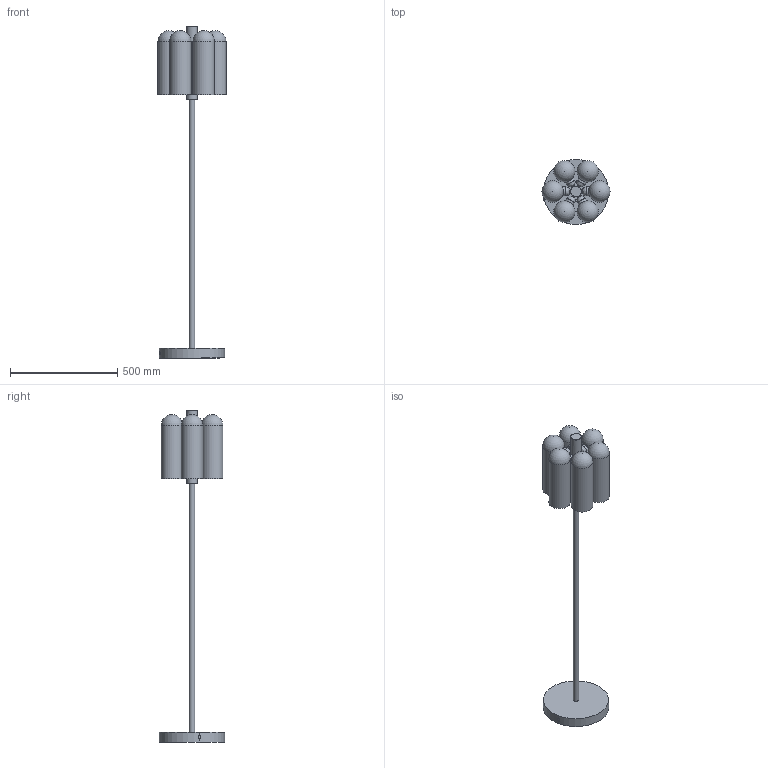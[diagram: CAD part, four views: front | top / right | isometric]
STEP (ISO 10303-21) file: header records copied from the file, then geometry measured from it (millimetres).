
FILE_DESCRIPTION(/* description */ (''),/* implementation_level */ '2;1');
FILE_NAME(/* name */ 'T:\B165 Odyssey Floor Lamp 6\Pliki bryłowe handlowe\B165 Odyssey 6 3D files\B165 Odyssey 6.stp',/* time_stamp */ '2022-01-25T13:41:21+01:00',/* author */ ('Mariusz Awariusz'),/* organization */ (''),/* preprocessor_version */ 'ST-DEVELOPER v18.1',/* originating_system */ 'Autodesk Inventor 2022',/* authorisation */ '');
FILE_SCHEMA (('AUTOMOTIVE_DESIGN { 1 0 10303 214 3 1 1 }'));
Length unit declared in the file: millimetre
Products named in the file (1): Odyssey Floor Lamp CE v6_na potrzeby plików 3D_jako część
Bounding box: 318 x 304.55 x 1550 mm (x, y, z)
Volume: 18101755.7 mm3; surface area: 967775.9 mm2
Topology: 1 solids, 1 shells, 78 faces, 201 edges, 130 vertices
Faces by surface type: cylinder 39, bspline 18, plane 13, sphere 6, cone 2
Full cylindrical faces by diameter (mm): 13 x7, 25 x1, 42 x6, 50 x3, 100 x6
Entity records: 3265 total; most frequent: CARTESIAN_POINT 1447, ORIENTED_EDGE 390, DIRECTION 351, EDGE_CURVE 195, AXIS2_PLACEMENT_3D 159, VERTEX_POINT 130, CIRCLE 98, EDGE_LOOP 91
